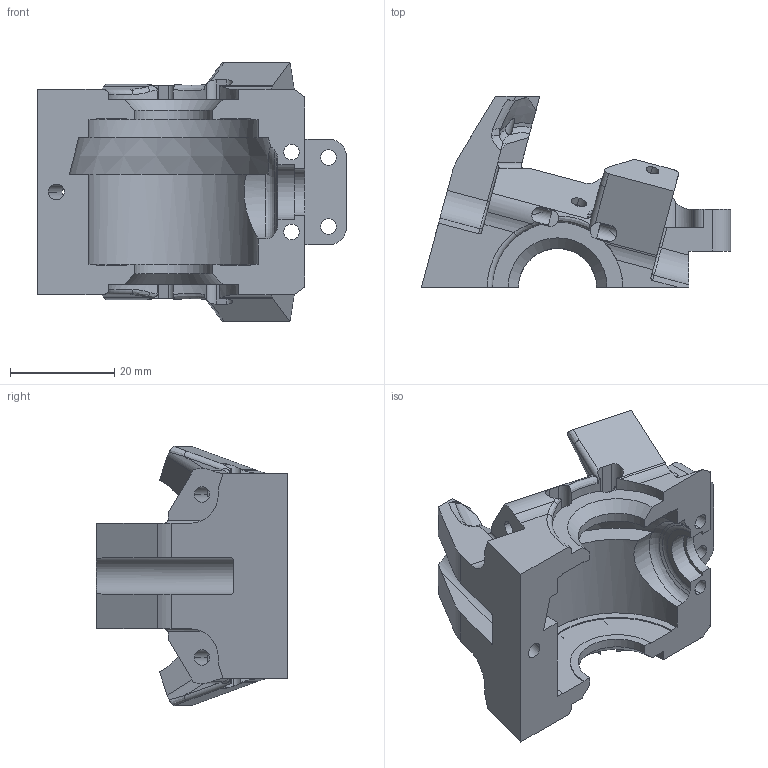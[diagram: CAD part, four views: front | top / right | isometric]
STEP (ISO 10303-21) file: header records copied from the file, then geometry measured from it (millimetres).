
FILE_DESCRIPTION (( 'STEP AP214' ), '1' );
FILE_NAME ('Ì44_ÏÌ_Êðûøêà Äèôôåðåíöèàëà.STEP', '2019-03-21T14:08:20', ( '' ), ( '' ), 'SwSTEP 2.0', 'SolidWorks 2018', '' );
FILE_SCHEMA (( 'AUTOMOTIVE_DESIGN' ));
Length unit declared in the file: millimetre
Products named in the file (1): Ì44_ÏÌ_Êðûøêà Äèôôåðåíöèàëà
Bounding box: 59.36 x 36.69 x 49.75 mm (x, y, z)
Volume: 22676.7 mm3; surface area: 12150.3 mm2
Topology: 1 solids, 1 shells, 276 faces, 803 edges, 524 vertices
Faces by surface type: cylinder 132, plane 103, bspline 18, torus 13, cone 10
Entity records: 10881 total; most frequent: CARTESIAN_POINT 3894, ORIENTED_EDGE 1604, DIRECTION 1320, EDGE_CURVE 802, VERTEX_POINT 524, AXIS2_PLACEMENT_3D 474, LINE 372, VECTOR 372
